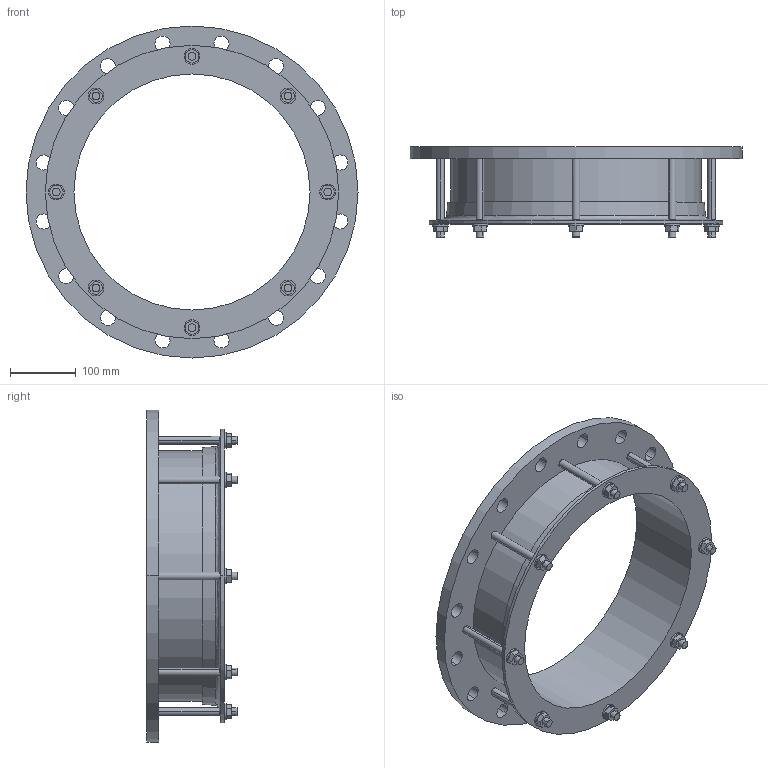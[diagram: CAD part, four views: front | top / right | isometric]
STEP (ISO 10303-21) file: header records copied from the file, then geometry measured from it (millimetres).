
FILE_DESCRIPTION((''),'2;1');
FILE_NAME('355X350PN10','2019-01-16T',('mfairey'),('Glynwed Pipe Systems'),'CREO PARAMETRIC BY PTC INC, 2016130','CREO PARAMETRIC BY PTC INC, 2016130','');
FILE_SCHEMA(('CONFIG_CONTROL_DESIGN'));
Length unit declared in the file: millimetre
Products named in the file (1): 355X350PN10
Bounding box: 505 x 137.45 x 505 mm (x, y, z)
Volume: 3528306.6 mm3; surface area: 599388.3 mm2
Topology: 1 solids, 1 shells, 170 faces, 446 edges, 296 vertices
Faces by surface type: cylinder 88, plane 76, cone 4, torus 2
Entity records: 5829 total; most frequent: CARTESIAN_POINT 1383, DIRECTION 924, ORIENTED_EDGE 892, EDGE_CURVE 446, AXIS2_PLACEMENT_3D 344, VERTEX_POINT 296, EDGE_LOOP 238, VECTOR 236
